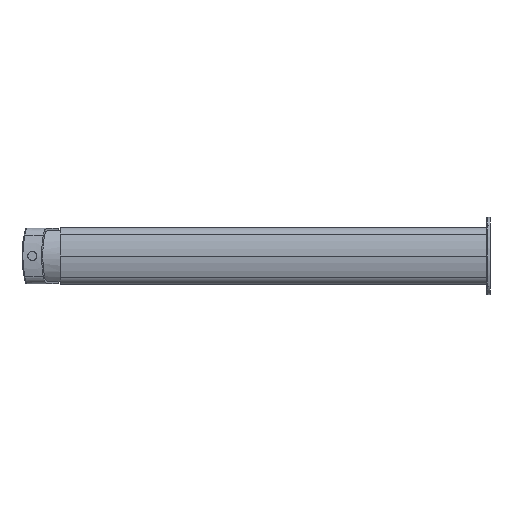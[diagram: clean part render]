
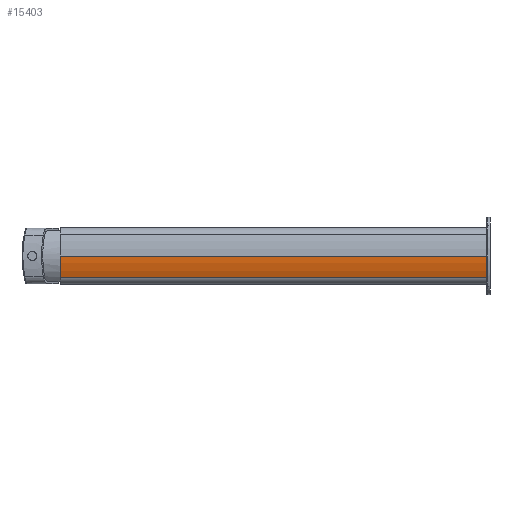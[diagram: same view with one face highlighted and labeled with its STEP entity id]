
A CAD part, left-side view. The second image highlights one B-rep face of the part: STEP entity #15403.
In plain terms, the highlighted free-form (B-spline) face has degree [3, 1] with [6, 2] control points.
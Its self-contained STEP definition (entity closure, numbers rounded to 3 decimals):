
#19 = EDGE_CURVE ( 'NONE', #43900, #38016, #48714, .T. ) ;
#389 = CARTESIAN_POINT ( 'NONE',  ( 180.877, -128.351, -8.662 ) ) ;
#1556 = CARTESIAN_POINT ( 'NONE',  ( 180.047, 120., -4.435 ) ) ;
#3203 = CARTESIAN_POINT ( 'NONE',  ( 179.854, -128.351, -1.498 ) ) ;
#4592 = CARTESIAN_POINT ( 'NONE',  ( 179.854, -128.351, -1.498 ) ) ;
#4893 = VECTOR ( 'NONE', #7831, 1000. ) ;
#5991 = B_SPLINE_CURVE_WITH_KNOTS ( 'NONE', 3,
 ( #46499, #36836, #56424, #60922, #3203, #12499 ),
 .UNSPECIFIED., .F., .F.,
 ( 4, 1, 1, 4 ),
 ( 0., 0.317, 0.651, 1. ),
 .UNSPECIFIED. ) ;
#6761 = CARTESIAN_POINT ( 'NONE',  ( 179.854, -128.351, 0. ) ) ;
#7447 = VERTEX_POINT ( 'NONE', #43279 ) ;
#7831 = DIRECTION ( 'NONE',  ( 0., 1., 0. ) ) ;
#9405 = CARTESIAN_POINT ( 'NONE',  ( 182.252, 120., -12.599 ) ) ;
#10332 = CARTESIAN_POINT ( 'NONE',  ( 182.252, -128.351, -12.599 ) ) ;
#12117 = CARTESIAN_POINT ( 'NONE',  ( 181.751, 120., -11.33 ) ) ;
#12414 = CARTESIAN_POINT ( 'NONE',  ( 179.854, 120., 0. ) ) ;
#12499 = CARTESIAN_POINT ( 'NONE',  ( 179.854, -128.351, 0. ) ) ;
#14211 = CARTESIAN_POINT ( 'NONE',  ( 181.751, -128.351, -11.33 ) ) ;
#15403 = ADVANCED_FACE ( 'NONE', ( #24767 ), #40149, .T. ) ;
#19653 = CARTESIAN_POINT ( 'NONE',  ( 180.877, 120., -8.662 ) ) ;
#22207 = ORIENTED_EDGE ( 'NONE', *, *, #59027, .F. ) ;
#23860 = ORIENTED_EDGE ( 'NONE', *, *, #54310, .T. ) ;
#24767 = FACE_OUTER_BOUND ( 'NONE', #26510, .T. ) ;
#25400 = CARTESIAN_POINT ( 'NONE',  ( 181.751, 120., -11.33 ) ) ;
#26510 = EDGE_LOOP ( 'NONE', ( #56407, #22207, #32959, #23860 ) ) ;
#29903 = EDGE_CURVE ( 'NONE', #7447, #37761, #5991, .T. ) ;
#29916 = LINE ( 'NONE', #49185, #42296 ) ;
#32959 = ORIENTED_EDGE ( 'NONE', *, *, #29903, .T. ) ;
#33129 = CARTESIAN_POINT ( 'NONE',  ( 182.252, 120., -12.599 ) ) ;
#34995 = CARTESIAN_POINT ( 'NONE',  ( 180.047, -128.351, -4.435 ) ) ;
#36836 = CARTESIAN_POINT ( 'NONE',  ( 181.751, -128.351, -11.33 ) ) ;
#37761 = VERTEX_POINT ( 'NONE', #6761 ) ;
#38016 = VERTEX_POINT ( 'NONE', #54731 ) ;
#39810 = CARTESIAN_POINT ( 'NONE',  ( 179.854, -128.351, 0. ) ) ;
#40149 = B_SPLINE_SURFACE_WITH_KNOTS ( 'NONE', 3, 1, ( 
 ( #10332, #9405 ),
 ( #14211, #25400 ),
 ( #389, #19653 ),
 ( #34995, #48499 ),
 ( #4592, #63225 ),
 ( #39810, #49113 ) ),
 .UNSPECIFIED., .F., .F., .F.,
 ( 4, 1, 1, 4 ),
 ( 2, 2 ),
 ( 0., 0.317, 0.651, 1. ),
 ( 0., 1. ),
 .UNSPECIFIED. ) ;
#41271 = CARTESIAN_POINT ( 'NONE',  ( 180.877, 120., -8.662 ) ) ;
#41898 = CARTESIAN_POINT ( 'NONE',  ( 182.252, 120., -12.599 ) ) ;
#42296 = VECTOR ( 'NONE', #49508, 1000. ) ;
#43279 = CARTESIAN_POINT ( 'NONE',  ( 182.252, -128.351, -12.599 ) ) ;
#43900 = VERTEX_POINT ( 'NONE', #33129 ) ;
#46499 = CARTESIAN_POINT ( 'NONE',  ( 182.252, -128.351, -12.599 ) ) ;
#48499 = CARTESIAN_POINT ( 'NONE',  ( 180.047, 120., -4.435 ) ) ;
#48714 = B_SPLINE_CURVE_WITH_KNOTS ( 'NONE', 3,
 ( #41898, #12117, #41271, #1556, #60828, #12414 ),
 .UNSPECIFIED., .F., .F.,
 ( 4, 1, 1, 4 ),
 ( 0., 0.317, 0.651, 1. ),
 .UNSPECIFIED. ) ;
#49113 = CARTESIAN_POINT ( 'NONE',  ( 179.854, 120., 0. ) ) ;
#49185 = CARTESIAN_POINT ( 'NONE',  ( 182.252, -130.851, -12.599 ) ) ;
#49508 = DIRECTION ( 'NONE',  ( 0., 1., 0. ) ) ;
#54310 = EDGE_CURVE ( 'NONE', #37761, #38016, #56519, .T. ) ;
#54731 = CARTESIAN_POINT ( 'NONE',  ( 179.854, 120., 0. ) ) ;
#55909 = CARTESIAN_POINT ( 'NONE',  ( 179.854, -130.851, 0. ) ) ;
#56407 = ORIENTED_EDGE ( 'NONE', *, *, #19, .F. ) ;
#56424 = CARTESIAN_POINT ( 'NONE',  ( 180.877, -128.351, -8.662 ) ) ;
#56519 = LINE ( 'NONE', #55909, #4893 ) ;
#59027 = EDGE_CURVE ( 'NONE', #7447, #43900, #29916, .T. ) ;
#60828 = CARTESIAN_POINT ( 'NONE',  ( 179.854, 120., -1.498 ) ) ;
#60922 = CARTESIAN_POINT ( 'NONE',  ( 180.047, -128.351, -4.435 ) ) ;
#63225 = CARTESIAN_POINT ( 'NONE',  ( 179.854, 120., -1.498 ) ) ;
